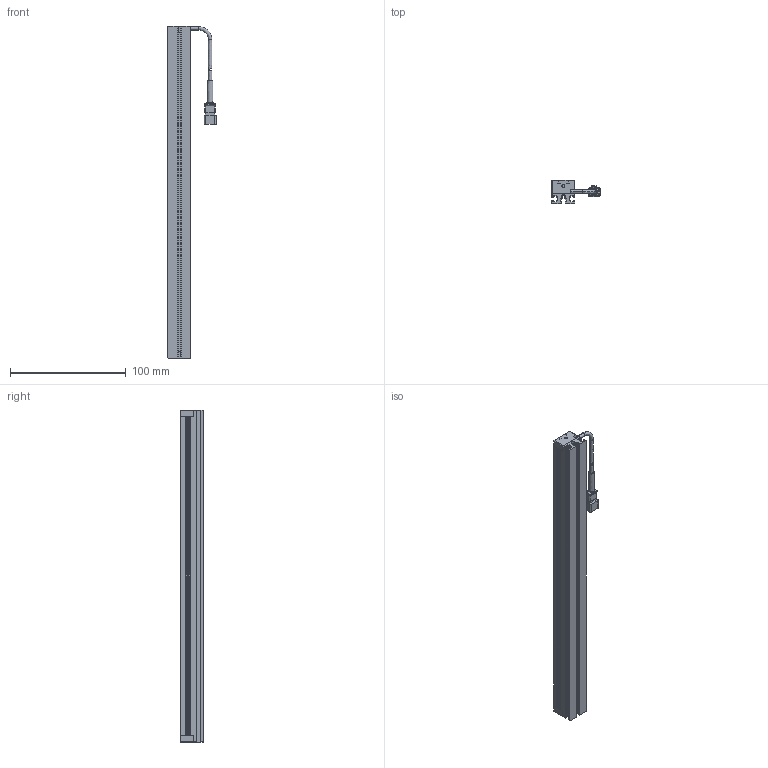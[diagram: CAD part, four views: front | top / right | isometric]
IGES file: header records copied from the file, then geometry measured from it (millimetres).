
Start section: SolidWorks IGES file using NURBS representation for surfaces
Global section: file name: \\nassrv01\ccs_c$\PRODUCTS\80_その他テーマ\RD32114_LDL2-GR2特注の標準化\02_図面\提出用\3D\9_LDL2-275X16GR2\41x16_LDL2-275X16GR2.IGS; native system: SolidWorks 2022; preprocessor: SolidWorks 2022; author: midorikawast; date: 240930.164334; units: millimetre
Bounding box: 41.75 x 20 x 287 mm (x, y, z)
Surface area: 59106.4 mm2 (no closed solid volume)
Topology: 0 solids, 0 shells, 430 faces, 4198 edges, 4190 vertices
Faces by surface type: bspline 430
